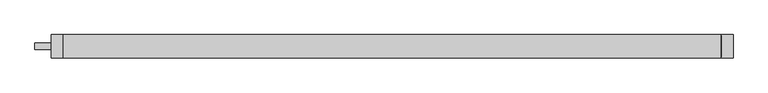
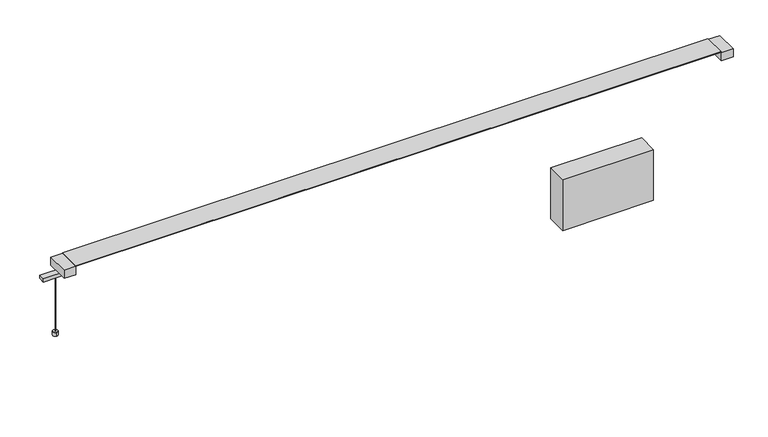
"""IFC4 building model written with IfcOpenShell, lengths in millimetres: light fixture geometry, Fabbian.Pivot F39 (F39 A01A 01,F39 A01A 21,F39 A01A 76,F39 A02A 01,F39 A02A 21,F39 A02A 76) : F39 A01A 01."""

from ifc_helpers import new_model, si_unit, point, frame, frame_2d, origin, origin_with_axes, place, context, project, spatial, polyline, circle_curve, trimmed, segment, composite_curve, outline, extrude, source, transform, mapped, element, save


def light_fixture_624f0ba3(model_context):
    return source(origin(), model_context, "Body", "SweptSolid", [
        extrude(outline(composite_curve([segment(trimmed(circle_curve(frame_2d((-815.8132834, 0.0)), 0.4949808), [point((-816.3082642, 0.0))], [point((-815.3183026, 0.0))], False, "CARTESIAN"), True, "CONTINUOUS"), segment(trimmed(circle_curve(frame_2d((-815.8132834, 0.0)), 0.4949808), [point((-815.3183026, 0.0))], [point((-816.3082642, 0.0))], False, "CARTESIAN"), True, "CONTINUOUS")], self_intersect=False)), origin_with_axes(), (0.0, 0.0, 1.0), 151.6242394),
        extrude(outline(polyline([(619.1350388, -24.9666442), (399.1348055, -24.9666442), (399.1348055, 25.0334567), (619.1350388, 25.0334567), (619.1350388, -24.9666442)])), frame((0.0, 0.0, -142.875), z_axis=(0.0, 0.0, 1.0), x_axis=(1.0, 0.0, 0.0)), (0.0, 0.0, 1.0), 130.175),
        extrude(outline(polyline([(0.4107254, 159.893756), (0.4107254, 160.681594), (-0.4107259, 160.681594), (-0.4107259, 159.893756), (-25.5497693, 181.0787506), (26.3879175, 181.0787506), (0.4107254, 159.893756)])), frame((-782.3132834, 0.0, 0.0), z_axis=(1.0, 0.0, 0.0), x_axis=(0.0, 1.0, 0.0)), (0.0, 0.0, 1.0), 1564.6265668),
        extrude(outline(polyline([(-782.3132834, -27.7285043), (-810.5140956, -27.7285043), (-810.5140956, 27.7953166), (-782.3132834, 27.7953166), (-782.3132834, -27.7285043)])), frame((0.0, 0.0, 159.6242394), z_axis=(0.0, 0.0, 1.0), x_axis=(1.0, 0.0, 0.0)), (0.0, 0.0, 1.0), 20.8761838),
        extrude(outline(polyline([(782.3132834, -27.7285042), (782.3132834, 27.7953167), (810.5140956, 27.7953167), (810.5140956, -27.7285042), (782.3132834, -27.7285042)])), frame((0.0, 0.0, 159.6242394), z_axis=(0.0, 0.0, 1.0), x_axis=(1.0, 0.0, 0.0)), (0.0, 0.0, 1.0), 20.8761838),
        extrude(outline(polyline([(0.0, 0.8214513), (1564.6265668, 0.8214513), (1564.6265668, 0.0), (0.0, 0.0), (0.0, 0.8214513)])), frame((-782.3132834, -0.4107259, 159.893756), z_axis=(-5.7155291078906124e-11, 0.0, 1.0), x_axis=(1.0, 0.0, 5.7155291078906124e-11)), (0.0, 0.0, 1.0), 0.787838),
        extrude(outline(polyline([(781.7488887, 27.7780006), (781.7488887, -27.7779986), (-782.3132834, -27.7779986), (-782.3132834, 27.7780006), (781.7488887, 27.7780006)])), frame((0.0, 0.0, 181.0787506), z_axis=(0.0, 0.0, 1.0), x_axis=(1.0, 0.0, 0.0)), (0.0, 0.0, 1.0), 1.1514277),
        extrude(outline(composite_curve([segment(trimmed(circle_curve(frame_2d((-815.8133121, 0.4556113)), 5.8155806), [point((-816.6410047, -5.3007681))], [point((-814.9856195, 6.2119906))], False, "CARTESIAN"), True, "CONTINUOUS"), segment(trimmed(circle_curve(frame_2d((-815.8133121, 0.4556113)), 5.8155806), [point((-814.9856195, 6.2119906))], [point((-816.6410047, -5.3007681))], False, "CARTESIAN"), True, "CONTINUOUS")], self_intersect=False)), origin_with_axes(), (0.0, 0.0, 1.0), 9.6582083),
        extrude(outline(polyline([(-782.3132834, 7.5334062), (-782.3132834, -7.4665938), (-849.3132834, -7.4665938), (-849.3132834, 7.5334062), (-782.3132834, 7.5334062)])), frame((0.0, 0.0, 151.6242394), z_axis=(0.0, 0.0, 1.0), x_axis=(1.0, 0.0, 0.0)), (0.0, 0.0, 1.0), 8.0),
    ])


if __name__ == "__main__":
    model = new_model("IFC4")
    model_context = context("Model", 3, world=origin())
    ifc_project = project(units=[si_unit("LENGTHUNIT", "METRE", prefix="MILLI")], contexts=[model_context])
    site = spatial("IfcSite", under=ifc_project)
    building = spatial("IfcBuilding", under=site)
    placement = place(None, origin())
    light_fixture_shape = light_fixture_624f0ba3(model_context)
    element("IfcLightFixture", 1, ObjectType="Fabbian.Pivot F39 (F39 A01A 01,F39 A01A 21,F39 A01A 76,F39 A02A 01,F39 A02A 21,F39 A02A 76) : F39 A01A 01", at=placement, inside=building, context=model_context, shape_type="MappedRepresentation", body=[
        mapped(light_fixture_shape, transform((0.0, 0.0, 0.0), x_axis=(1.0, 0.0, 0.0), y_axis=(0.0, 1.0, 0.0), z_axis=(0.0, 0.0, 1.0))),
    ])
    save(model, "model.ifc")
